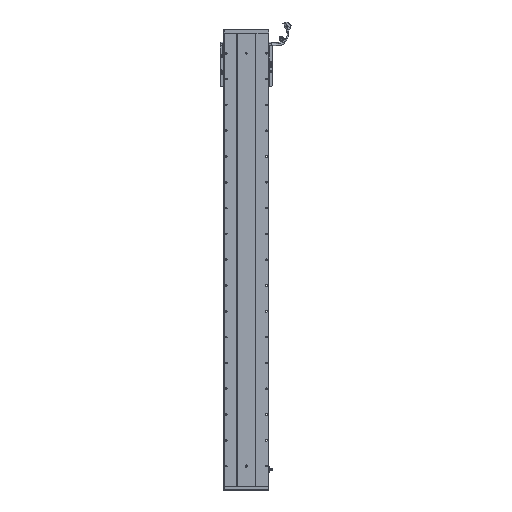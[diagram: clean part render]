
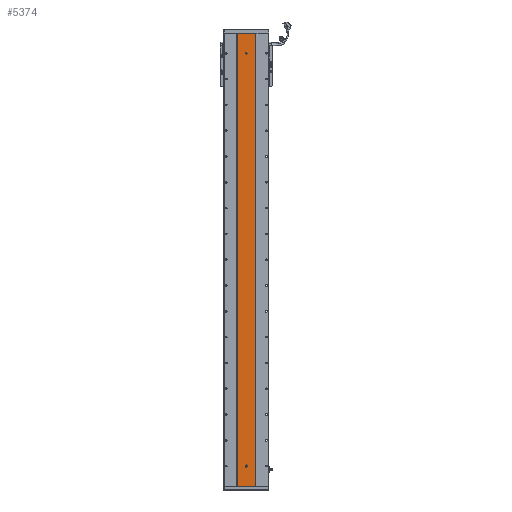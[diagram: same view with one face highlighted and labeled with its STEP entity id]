
A CAD part, front view. The second image highlights one B-rep face of the part: STEP entity #5374.
In plain terms, the highlighted planar face has unit normal (0, -1, 0).
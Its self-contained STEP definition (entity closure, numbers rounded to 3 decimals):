
#822 = ORIENTED_EDGE ( 'NONE', *, *, #47665, .F. ) ;
#1834 = CARTESIAN_POINT ( 'NONE',  ( 3244.748, 1415.701, 1757. ) ) ;
#1855 = DIRECTION ( 'NONE',  ( 0., -1., 0. ) ) ;
#2982 = CARTESIAN_POINT ( 'NONE',  ( 3280.529, 1415.701, 1678.5 ) ) ;
#3178 = LINE ( 'NONE', #5777, #45490 ) ;
#3986 = ORIENTED_EDGE ( 'NONE', *, *, #37632, .F. ) ;
#5052 = DIRECTION ( 'NONE',  ( 0., 0., -1. ) ) ;
#5057 = DIRECTION ( 'NONE',  ( 0., 0., -1. ) ) ;
#5374 = ADVANCED_FACE ( 'NONE', ( #69941, #87760, #88973 ), #9299, .F. ) ;
#5777 = CARTESIAN_POINT ( 'NONE',  ( 3244.748, 1415.701, 1757. ) ) ;
#7363 = EDGE_CURVE ( 'NONE', #79636, #86253, #3178, .T. ) ;
#8403 = AXIS2_PLACEMENT_3D ( 'NONE', #21568, #30531, #46692 ) ;
#9299 = PLANE ( 'NONE',  #64803 ) ;
#10798 = CARTESIAN_POINT ( 'NONE',  ( 3283.529, 1415.701, 80. ) ) ;
#10957 = EDGE_CURVE ( 'NONE', #19499, #31748, #47577, .T. ) ;
#11389 = CARTESIAN_POINT ( 'NONE',  ( 3280.529, 1415.701, 1675.5 ) ) ;
#12390 = CIRCLE ( 'NONE', #24138, 3. ) ;
#13610 = EDGE_CURVE ( 'NONE', #59362, #41352, #12390, .T. ) ;
#14945 = ORIENTED_EDGE ( 'NONE', *, *, #44655, .T. ) ;
#18818 = DIRECTION ( 'NONE',  ( 0., -1., 0. ) ) ;
#19499 = VERTEX_POINT ( 'NONE', #59392 ) ;
#21568 = CARTESIAN_POINT ( 'NONE',  ( 3280.529, 1415.701, 77. ) ) ;
#22067 = DIRECTION ( 'NONE',  ( 0., 0., -1. ) ) ;
#24138 = AXIS2_PLACEMENT_3D ( 'NONE', #96319, #47236, #104598 ) ;
#24529 = VERTEX_POINT ( 'NONE', #105370 ) ;
#24723 = VERTEX_POINT ( 'NONE', #76923 ) ;
#24754 = ORIENTED_EDGE ( 'NONE', *, *, #41393, .F. ) ;
#26717 = LINE ( 'NONE', #59072, #94713 ) ;
#29506 = ORIENTED_EDGE ( 'NONE', *, *, #60174, .F. ) ;
#29786 = EDGE_LOOP ( 'NONE', ( #14945, #3986, #57737, #59098 ) ) ;
#30531 = DIRECTION ( 'NONE',  ( 0., -1., 0. ) ) ;
#31113 = CIRCLE ( 'NONE', #49180, 3. ) ;
#31748 = VERTEX_POINT ( 'NONE', #91259 ) ;
#32991 = CARTESIAN_POINT ( 'NONE',  ( 3244.748, 1415.701, 1757. ) ) ;
#34653 = DIRECTION ( 'NONE',  ( 1., 0., 0. ) ) ;
#37632 = EDGE_CURVE ( 'NONE', #24723, #71166, #84343, .T. ) ;
#39920 = CARTESIAN_POINT ( 'NONE',  ( 3280.529, 1415.701, 80. ) ) ;
#40267 = CIRCLE ( 'NONE', #71562, 3. ) ;
#41352 = VERTEX_POINT ( 'NONE', #64737 ) ;
#41393 = EDGE_CURVE ( 'NONE', #41352, #59362, #31113, .T. ) ;
#42445 = VECTOR ( 'NONE', #22067, 1000. ) ;
#44655 = EDGE_CURVE ( 'NONE', #86253, #71166, #26717, .T. ) ;
#45490 = VECTOR ( 'NONE', #5052, 1000. ) ;
#46518 = CARTESIAN_POINT ( 'NONE',  ( 3283.529, 1415.701, 80. ) ) ;
#46692 = DIRECTION ( 'NONE',  ( 0., 0., -1. ) ) ;
#47236 = DIRECTION ( 'NONE',  ( 0., -1., 0. ) ) ;
#47577 = LINE ( 'NONE', #55104, #42445 ) ;
#47665 = EDGE_CURVE ( 'NONE', #91438, #24529, #40267, .T. ) ;
#47989 = AXIS2_PLACEMENT_3D ( 'NONE', #39920, #103008, #5057 ) ;
#48450 = LINE ( 'NONE', #81108, #89450 ) ;
#48499 = VERTEX_POINT ( 'NONE', #46518 ) ;
#49180 = AXIS2_PLACEMENT_3D ( 'NONE', #2982, #18818, #76120 ) ;
#52077 = DIRECTION ( 'NONE',  ( 0., 0., 1. ) ) ;
#55104 = CARTESIAN_POINT ( 'NONE',  ( 3277.529, 1415.701, 80. ) ) ;
#57478 = ORIENTED_EDGE ( 'NONE', *, *, #96083, .F. ) ;
#57737 = ORIENTED_EDGE ( 'NONE', *, *, #102603, .F. ) ;
#58228 = DIRECTION ( 'NONE',  ( 0., 0., -1. ) ) ;
#59072 = CARTESIAN_POINT ( 'NONE',  ( 3244.748, 1415.701, 0. ) ) ;
#59098 = ORIENTED_EDGE ( 'NONE', *, *, #7363, .T. ) ;
#59125 = LINE ( 'NONE', #10798, #96339 ) ;
#59153 = EDGE_LOOP ( 'NONE', ( #96090, #24754 ) ) ;
#59362 = VERTEX_POINT ( 'NONE', #11389 ) ;
#59392 = CARTESIAN_POINT ( 'NONE',  ( 3277.529, 1415.701, 80. ) ) ;
#60174 = EDGE_CURVE ( 'NONE', #24529, #48499, #59125, .T. ) ;
#61127 = CIRCLE ( 'NONE', #8403, 3. ) ;
#63467 = ORIENTED_EDGE ( 'NONE', *, *, #10957, .F. ) ;
#64737 = CARTESIAN_POINT ( 'NONE',  ( 3280.529, 1415.701, 1681.5 ) ) ;
#64803 = AXIS2_PLACEMENT_3D ( 'NONE', #32991, #74529, #98598 ) ;
#67129 = CARTESIAN_POINT ( 'NONE',  ( 3280.529, 1415.701, 77. ) ) ;
#68654 = EDGE_LOOP ( 'NONE', ( #89253, #63467, #57478, #29506, #822 ) ) ;
#69626 = CARTESIAN_POINT ( 'NONE',  ( 3280.529, 1415.701, 74. ) ) ;
#69941 = FACE_BOUND ( 'NONE', #68654, .T. ) ;
#71166 = VERTEX_POINT ( 'NONE', #96912 ) ;
#71562 = AXIS2_PLACEMENT_3D ( 'NONE', #67129, #1855, #75349 ) ;
#72169 = DIRECTION ( 'NONE',  ( 1., 0., 0. ) ) ;
#74529 = DIRECTION ( 'NONE',  ( 0., 1., 0. ) ) ;
#75349 = DIRECTION ( 'NONE',  ( 0., 0., -1. ) ) ;
#76120 = DIRECTION ( 'NONE',  ( 0., 0., -1. ) ) ;
#76650 = VECTOR ( 'NONE', #58228, 1000. ) ;
#76923 = CARTESIAN_POINT ( 'NONE',  ( 3316.311, 1415.701, 1757. ) ) ;
#79636 = VERTEX_POINT ( 'NONE', #1834 ) ;
#79714 = EDGE_CURVE ( 'NONE', #31748, #91438, #61127, .T. ) ;
#80755 = CARTESIAN_POINT ( 'NONE',  ( 3244.748, 1415.701, 0. ) ) ;
#81108 = CARTESIAN_POINT ( 'NONE',  ( 3244.748, 1415.701, 1757. ) ) ;
#83574 = CARTESIAN_POINT ( 'NONE',  ( 3316.311, 1415.701, 1757. ) ) ;
#84343 = LINE ( 'NONE', #83574, #76650 ) ;
#86253 = VERTEX_POINT ( 'NONE', #80755 ) ;
#87760 = FACE_BOUND ( 'NONE', #59153, .T. ) ;
#88973 = FACE_OUTER_BOUND ( 'NONE', #29786, .T. ) ;
#89253 = ORIENTED_EDGE ( 'NONE', *, *, #79714, .F. ) ;
#89450 = VECTOR ( 'NONE', #72169, 1000. ) ;
#91259 = CARTESIAN_POINT ( 'NONE',  ( 3277.529, 1415.701, 77. ) ) ;
#91438 = VERTEX_POINT ( 'NONE', #69626 ) ;
#92178 = CIRCLE ( 'NONE', #47989, 3. ) ;
#94713 = VECTOR ( 'NONE', #34653, 1000. ) ;
#96083 = EDGE_CURVE ( 'NONE', #48499, #19499, #92178, .T. ) ;
#96090 = ORIENTED_EDGE ( 'NONE', *, *, #13610, .F. ) ;
#96319 = CARTESIAN_POINT ( 'NONE',  ( 3280.529, 1415.701, 1678.5 ) ) ;
#96339 = VECTOR ( 'NONE', #52077, 1000. ) ;
#96912 = CARTESIAN_POINT ( 'NONE',  ( 3316.311, 1415.701, 0. ) ) ;
#98598 = DIRECTION ( 'NONE',  ( 0., 0., 1. ) ) ;
#102603 = EDGE_CURVE ( 'NONE', #79636, #24723, #48450, .T. ) ;
#103008 = DIRECTION ( 'NONE',  ( 0., -1., 0. ) ) ;
#104598 = DIRECTION ( 'NONE',  ( 0., 0., -1. ) ) ;
#105370 = CARTESIAN_POINT ( 'NONE',  ( 3283.529, 1415.701, 77. ) ) ;
